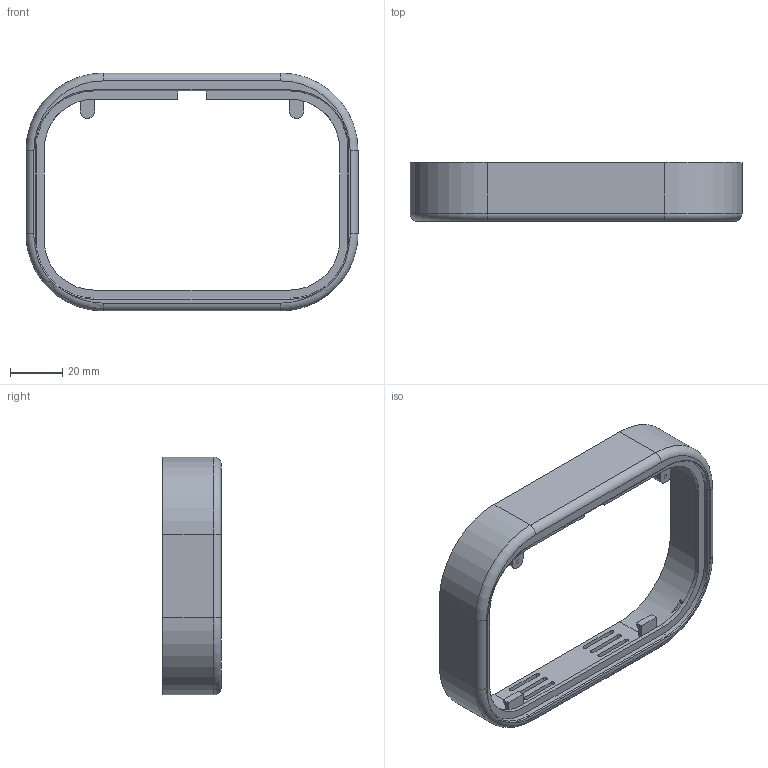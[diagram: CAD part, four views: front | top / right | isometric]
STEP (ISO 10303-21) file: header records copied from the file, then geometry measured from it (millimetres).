
FILE_DESCRIPTION(('Open CASCADE Model'),'2;1');
FILE_NAME('Open CASCADE Shape Model','2026-11-01T16:32:26',('Author'),( 'Open CASCADE'),'Open CASCADE STEP processor 8.0','build123d', 'Unknown');
FILE_SCHEMA(('AUTOMOTIVE_DESIGN { 1 0 10303 214 1 1 1 1 }'));
Length unit declared in the file: millimetre
Products named in the file (1): COMPOUND
Bounding box: 127 x 22.5 x 91 mm (x, y, z)
Volume: 22485.3 mm3; surface area: 22925.8 mm2
Topology: 1 solids, 1 shells, 129 faces, 352 edges, 228 vertices
Faces by surface type: plane 75, cylinder 42, torus 10, bspline 2
Full cylindrical faces by diameter (mm): 1.6 x2
Entity records: 8702 total; most frequent: CARTESIAN_POINT 1982, DIRECTION 1174, ORIENTED_EDGE 704, PCURVE 704, DEFINITIONAL_REPRESENTATION 704, LINE 630, VECTOR 630, EDGE_CURVE 352
